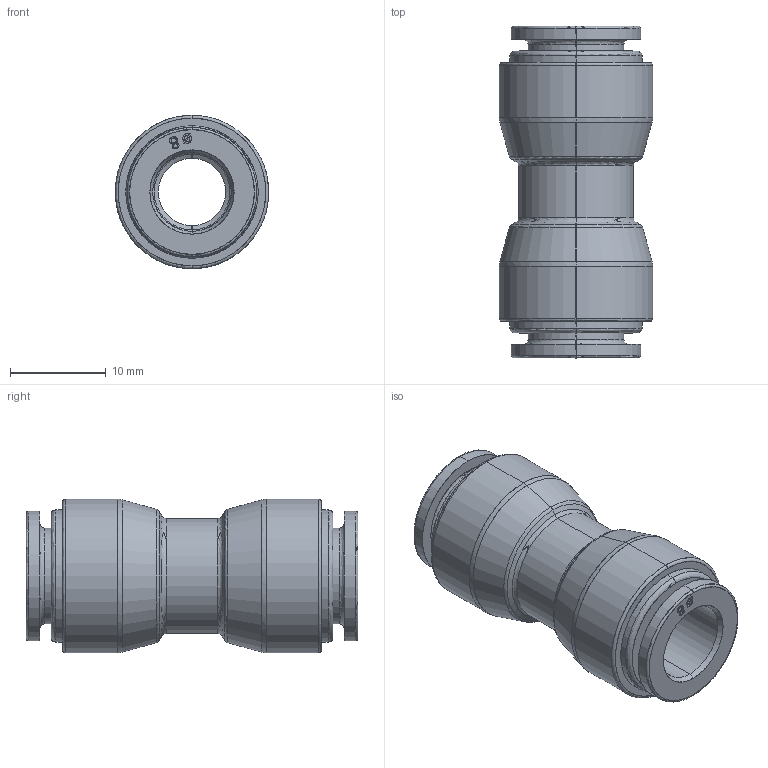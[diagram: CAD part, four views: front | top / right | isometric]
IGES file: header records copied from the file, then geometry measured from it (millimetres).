
Start section: SolidWorks IGES file using analytic representation for surfaces
Global section: file name: K:\Disegni Esecutivi\SERIE 53000\53000 Assiemi\53040\Iges\5304000005A.IGS; native system: SolidWorks 2020; preprocessor: SolidWorks 2020; author: cad06; date: 230306.113236; units: millimetre
Bounding box: 16 x 34.6 x 16 mm (x, y, z)
Surface area: 2990.6 mm2 (no closed solid volume)
Topology: 0 solids, 0 shells, 172 faces, 1972 edges, 1972 vertices
Faces by surface type: bspline 132, revolution 40
